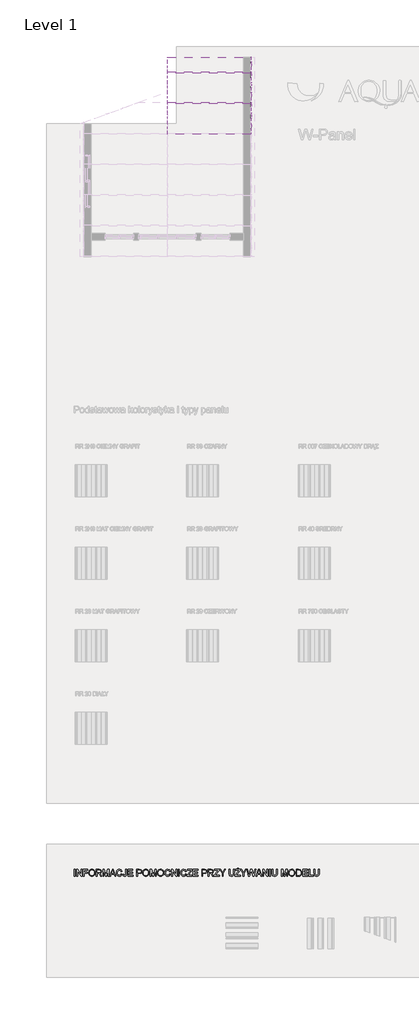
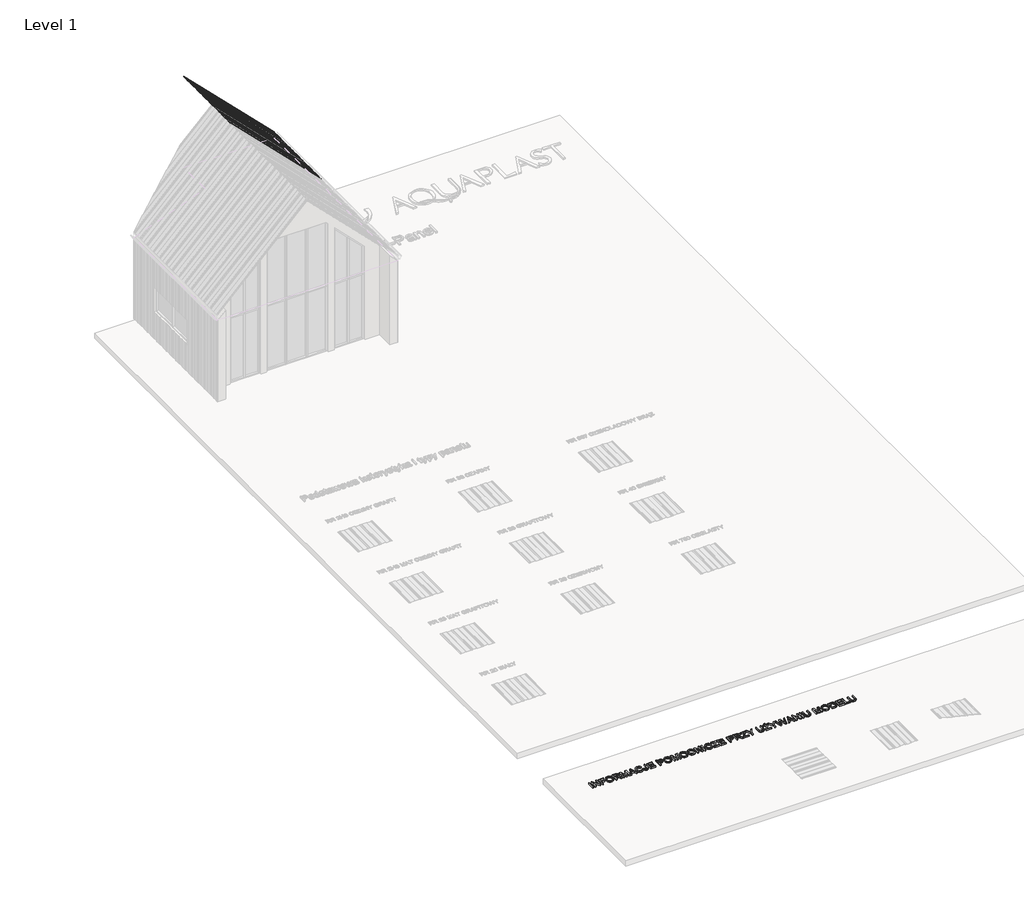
# One storey, part 4 of 9: 7 proxies.
"""IFC4 building model written with IfcOpenShell, lengths in millimetres."""

from ifc_helpers import new_model, si_unit, frame, origin, place, context, project, spatial, polyline, outline, extrude, transform, mapped, element, save
from components import specialty_equipment_76631281, specialty_equipment_bb2a4659

model = new_model("IFC4")

# Units and contexts
model_context = context("Model", 3, world=origin())
ifc_project = project(units=[si_unit("LENGTHUNIT", "METRE", prefix="MILLI")], contexts=[model_context])

# Site, building, storey
site = spatial("IfcSite", under=ifc_project)
building = spatial("IfcBuilding", under=site)
storey = spatial("IfcBuildingStorey", under=building, Name="Level 1", Elevation=0.0)

# Proxies
placement = place(None, origin())
element("IfcBuildingElementProxy", 1, Name="AQUAPLAST - W-Panel : RR 32 BRĄZ", ObjectType="AQUAPLAST - W-Panel : RR 32 BRĄZ", at=placement, inside=storey, context=model_context, shape_type="SweptSolid", body=[
    extrude(outline(polyline([(0.0, -586.3438713), (10.0, -576.3438713), (10.0, -554.626294), (0.0, -544.626294), (0.0, -396.0417131), (10.0, -386.0417131), (10.0, -234.3241358), (0.0, -224.3241358), (0.0, -204.3241358), (10.0, -194.3241358), (10.0, -172.6065586), (0.0, -162.6065586), (0.0, -10.920379), (10.0, -0.920379), (10.0, 145.7971982), (0.0, 155.7971982), (0.0, 180.7971982), (10.0, 190.7971982), (10.0, 210.5370534), (0.0, 220.5370534), (0.0, 370.5370534), (10.0, 380.5370534), (10.0, 530.7135982), (0.5, 540.2135982), (0.5, 562.5464217), (10.5, 572.5464217), (10.5, 594.6782125), (4.6782125, 600.5), (5.4643393, 600.2138732), (11.0, 594.6782125), (11.0, 572.5464217), (1.0, 562.5464217), (1.0, 540.420705), (10.5, 530.920705), (10.5, 380.3299466), (0.5, 370.3299466), (0.5, 220.7441601), (10.5, 210.7441601), (10.5, 190.5900914), (0.5, 180.5900914), (0.5, 156.004305), (10.5, 146.004305), (10.5, -1.1274858), (0.5, -11.1274858), (0.5, -162.3994518), (10.5, -172.3994518), (10.5, -194.5312426), (0.5, -204.5312426), (0.5, -224.1170291), (10.5, -234.1170291), (10.5, -386.2488199), (0.5, -396.2488199), (0.5, -544.4191873), (10.5, -554.4191873), (10.5, -576.5509781), (0.5, -586.5509781), (0.5, -599.785926), (0.0, -600.5), (0.0, -586.3438713)])), frame((-2137.063183, 13860.5162138, 3795.9898987), z_axis=(-0.7071067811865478, 0.0, 0.7071067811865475), x_axis=(0.7071067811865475, 0.0, 0.7071067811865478)), (0.0, 0.0, 1.0), 4454.0),
])
element("IfcBuildingElementProxy", 2, Name="AQUAPLAST - W-Panel : RR 32 BRĄZ", ObjectType="AQUAPLAST - W-Panel : RR 32 BRĄZ", at=placement, inside=storey, context=model_context, shape_type="SweptSolid", body=[
    extrude(outline(polyline([(0.0, -586.3438713), (10.0, -576.3438713), (10.0, -554.626294), (0.0, -544.626294), (0.0, -396.0417131), (10.0, -386.0417131), (10.0, -234.3241358), (0.0, -224.3241358), (0.0, -204.3241358), (10.0, -194.3241358), (10.0, -172.6065586), (0.0, -162.6065586), (0.0, -10.920379), (10.0, -0.920379), (10.0, 145.7971982), (0.0, 155.7971982), (0.0, 180.7971982), (10.0, 190.7971982), (10.0, 210.5370534), (0.0, 220.5370534), (0.0, 370.5370534), (10.0, 380.5370534), (10.0, 530.7135982), (0.5, 540.2135982), (0.5, 562.5464217), (10.5, 572.5464217), (10.5, 594.6782125), (4.6782125, 600.5), (5.4643393, 600.2138732), (11.0, 594.6782125), (11.0, 572.5464217), (1.0, 562.5464217), (1.0, 540.420705), (10.5, 530.920705), (10.5, 380.3299466), (0.5, 370.3299466), (0.5, 220.7441601), (10.5, 210.7441601), (10.5, 190.5900914), (0.5, 180.5900914), (0.5, 156.004305), (10.5, 146.004305), (10.5, -1.1274858), (0.5, -11.1274858), (0.5, -162.3994518), (10.5, -172.3994518), (10.5, -194.5312426), (0.5, -204.5312426), (0.5, -224.1170291), (10.5, -234.1170291), (10.5, -386.2488199), (0.5, -396.2488199), (0.5, -544.4191873), (10.5, -554.4191873), (10.5, -576.5509781), (0.5, -586.5509781), (0.5, -599.785926), (0.0, -600.5), (0.0, -586.3438713)])), frame((-2137.063183, 15009.5162138, 3795.9898987), z_axis=(-0.7071067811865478, 0.0, 0.7071067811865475), x_axis=(0.7071067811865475, 0.0, 0.7071067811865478)), (0.0, 0.0, 1.0), 4454.0),
])
element("IfcBuildingElementProxy", 3, Name="AQUAPLAST - W-Panel : RR 32 BRĄZ", ObjectType="AQUAPLAST - W-Panel : RR 32 BRĄZ", at=placement, inside=storey, context=model_context, shape_type="SweptSolid", body=[
    extrude(outline(polyline([(0.0, -586.3438713), (10.0, -576.3438713), (10.0, -554.626294), (0.0, -544.626294), (0.0, -396.0417131), (10.0, -386.0417131), (10.0, -234.3241358), (0.0, -224.3241358), (0.0, -204.3241358), (10.0, -194.3241358), (10.0, -172.6065586), (0.0, -162.6065586), (0.0, -10.920379), (10.0, -0.920379), (10.0, 6.2), (10.5, 6.2), (10.5, -1.1274858), (0.5, -11.1274858), (0.5, -162.3994518), (10.5, -172.3994518), (10.5, -194.5312426), (0.5, -204.5312426), (0.5, -224.1170291), (10.5, -234.1170291), (10.5, -386.2488199), (0.5, -396.2488199), (0.5, -544.4191873), (10.5, -554.4191873), (10.5, -576.5509781), (0.5, -586.5509781), (0.5, -599.785926), (0.0, -600.5), (0.0, -586.3438713)])), frame((-2137.063183, 16158.5162138, 3795.9898987), z_axis=(-0.7071067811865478, 0.0, 0.7071067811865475), x_axis=(0.7071067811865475, 0.0, 0.7071067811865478)), (0.0, 0.0, 1.0), 4454.0),
])
specialty_equipment_shape = specialty_equipment_76631281(model_context)
element("IfcBuildingElementProxy", 4, Name="AQUAPLAST - W-Panel : RR 887 CZEKOLADOWY BRĄZ", ObjectType="AQUAPLAST - W-Panel : RR 887 CZEKOLADOWY BRĄZ", at=placement, inside=storey, context=model_context, shape_type="MappedRepresentation", body=[
    mapped(specialty_equipment_shape, transform((-2152.063183, 13862.8302878, 600.0), x_axis=(0.0, 1.0, 0.0), y_axis=(0.0, 0.0, 1.0), z_axis=(1.0, 0.0, 0.0))),
])
element("IfcBuildingElementProxy", 5, Name="AQUAPLAST - W-Panel : RR 887 CZEKOLADOWY BRĄZ", ObjectType="AQUAPLAST - W-Panel : RR 887 CZEKOLADOWY BRĄZ", at=placement, inside=storey, context=model_context, shape_type="MappedRepresentation", body=[
    mapped(specialty_equipment_shape, transform((-2152.063183, 15011.8302878, 600.0), x_axis=(0.0, 1.0, 0.0), y_axis=(0.0, 0.0, 1.0), z_axis=(1.0, 0.0, 0.0))),
])
specialty_equipment_2_shape = specialty_equipment_bb2a4659(model_context)
element("IfcBuildingElementProxy", 6, Name="AQUAPLAST - W-Panel : RR 887 CZEKOLADOWY BRĄZ", ObjectType="AQUAPLAST - W-Panel : RR 887 CZEKOLADOWY BRĄZ", at=placement, inside=storey, context=model_context, shape_type="MappedRepresentation", body=[
    mapped(specialty_equipment_2_shape, transform((-2152.063183, 16160.8302878, 600.0), x_axis=(0.0, 1.0, 0.0), y_axis=(0.0, 0.0, 1.0), z_axis=(1.0, 0.0, 0.0))),
])
element("IfcBuildingElementProxy", 7, Name="250", ObjectType="250", at=placement, inside=storey, context=model_context, shape_type="SweptSolid", body=[
    extrude(outline(polyline([(-8793.2713947, -14626.8895255), (-8793.2713947, -14375.7487501), (-8761.8787978, -14375.7487501), (-8761.8787978, -14626.8895255), (-8793.2713947, -14626.8895255)])), frame((0.0, 0.0, 600.0), z_axis=(0.0, 0.0, 1.0), x_axis=(1.0, 0.0, 0.0)), (0.0, 0.0, 1.0), 50.0),
    extrude(outline(polyline([(-8699.0936039, -14626.8895255), (-8699.0936039, -14375.7487501), (-8665.493715, -14375.7487501), (-8534.2824701, -14574.7115958), (-8534.2824701, -14375.7487501), (-8502.8898732, -14375.7487501), (-8502.8898732, -14626.8895255), (-8536.4897621, -14626.8895255), (-8667.701007, -14427.8653661), (-8667.701007, -14626.8895255), (-8699.0936039, -14626.8895255)])), frame((0.0, 0.0, 600.0), z_axis=(0.0, 0.0, 1.0), x_axis=(1.0, 0.0, 0.0)), (0.0, 0.0, 1.0), 50.0),
    extrude(outline(polyline([(-8447.9528286, -14626.8895255), (-8447.9528286, -14375.7487501), (-8279.2176201, -14375.7487501), (-8279.2176201, -14407.141347), (-8416.5602316, -14407.141347), (-8416.5602316, -14481.6987647), (-8298.8379932, -14481.6987647), (-8298.8379932, -14513.0913616), (-8416.5602316, -14513.0913616), (-8416.5602316, -14626.8895255), (-8447.9528286, -14626.8895255)])), frame((0.0, 0.0, 600.0), z_axis=(0.0, 0.0, 1.0), x_axis=(1.0, 0.0, 0.0)), (0.0, 0.0, 1.0), 50.0),
    extrude(outline(polyline([(-8247.8250232, -14504.6300758), (-8245.7326943, -14475.1726914), (-8239.4557078, -14449.0952229), (-8228.9940635, -14426.3976702), (-8214.3477616, -14407.0800334), (-8196.3943538, -14391.6558143), (-8176.011392, -14380.638515), (-8153.1988762, -14374.0281354), (-8127.9568064, -14371.8246755), (-8095.0160394, -14375.9633479), (-8065.4781809, -14388.3793653), (-8040.9527146, -14408.1990078), (-8023.0491241, -14434.5485557), (-8012.1046348, -14466.1557504), (-8008.4564716, -14501.7483335), (-8012.29624, -14537.8160974), (-8023.8155449, -14569.8678162), (-8042.3782573, -14596.2633494), (-8067.3482477, -14615.3625563), (-8096.6331874, -14626.9508392), (-8128.1407474, -14630.8136001), (-8161.5873521, -14626.5446361), (-8191.2938232, -14613.7377442), (-8215.7579759, -14593.5502197), (-8233.4776254, -14567.1393581), (-8244.2381737, -14536.7507725), (-8247.8250232, -14504.6300758)]), holes=[polyline([(-8216.4324263, -14504.9366441), (-8214.8631796, -14525.7488015), (-8210.1554397, -14544.2233755), (-8202.3092065, -14560.3603659), (-8191.3244801, -14574.1597728), (-8177.9715133, -14585.2115611), (-8163.0205591, -14593.1056956), (-8146.4716175, -14597.8421763), (-8128.3246884, -14599.4210032), (-8109.8673589, -14597.8268479), (-8093.12298, -14593.0443819), (-8078.0915516, -14585.0736054), (-8064.7730737, -14573.9145182), (-8053.8688215, -14559.8238713), (-8046.0800699, -14543.0584158), (-8041.4068189, -14523.6181517), (-8039.8490686, -14501.5030788), (-8042.516213, -14473.7126597), (-8050.5176464, -14449.6930311), (-8063.6464351, -14430.0496654), (-8081.6956455, -14415.3880351), (-8103.4696611, -14406.2599631), (-8127.7728654, -14403.2172724), (-8161.5413669, -14409.0803917), (-8190.2514909, -14426.6697496), (-8201.7056501, -14440.3561095), (-8209.8871924, -14457.9627118), (-8214.7961178, -14479.4895567), (-8216.4324263, -14504.9366441)])]), frame((0.0, 0.0, 600.0), z_axis=(0.0, 0.0, 1.0), x_axis=(1.0, 0.0, 0.0)), (0.0, 0.0, 1.0), 50.0),
    extrude(outline(polyline([(-7965.2916509, -14626.8895255), (-7965.2916509, -14375.7487501), (-7857.0730306, -14375.7487501), (-7827.9873604, -14377.4425401), (-7806.8264815, -14382.5239102), (-7791.3601092, -14391.9049011), (-7779.3579592, -14406.4975535), (-7771.6554299, -14424.5927492), (-7769.0879201, -14444.4813695), (-7773.3415557, -14469.2214337), (-7786.1024624, -14489.7308549), (-7807.7538507, -14504.7680315), (-7838.6789309, -14513.0913616), (-7820.8366541, -14526.5190545), (-7795.3914828, -14558.8313564), (-7753.514249, -14626.8895255), (-7789.9958802, -14626.8895255), (-7822.6760641, -14574.8342232), (-7846.2818254, -14540.375943), (-7862.8671721, -14524.0971647), (-7877.7970497, -14518.1190822), (-7896.0072085, -14517.0154363), (-7933.899054, -14517.0154363), (-7933.899054, -14626.8895255), (-7965.2916509, -14626.8895255)]), holes=[polyline([(-7933.899054, -14485.6228393), (-7863.6335929, -14485.6228393), (-7827.7957552, -14481.1775986), (-7816.0082029, -14475.3987856), (-7807.4396181, -14466.9528281), (-7802.2202923, -14456.7364385), (-7800.480517, -14445.6463292), (-7803.7991192, -14430.3332411), (-7813.7549257, -14417.9938659), (-7830.8844311, -14409.8544767), (-7855.72413, -14407.141347), (-7933.899054, -14407.141347), (-7933.899054, -14485.6228393)])]), frame((0.0, 0.0, 600.0), z_axis=(0.0, 0.0, 1.0), x_axis=(1.0, 0.0, 0.0)), (0.0, 0.0, 1.0), 50.0),
    extrude(outline(polyline([(-7714.1508755, -14626.8895255), (-7714.1508755, -14375.7487501), (-7660.3174769, -14375.7487501), (-7608.8139976, -14552.7613035), (-7598.3906744, -14589.733444), (-7587.1702735, -14549.6956202), (-7536.6478128, -14375.7487501), (-7482.6304732, -14375.7487501), (-7482.6304732, -14626.8895255), (-7514.0230701, -14626.8895255), (-7514.0230701, -14407.141347), (-7577.1148323, -14626.8895255), (-7619.6052027, -14626.8895255), (-7682.7582786, -14407.141347), (-7682.7582786, -14626.8895255), (-7714.1508755, -14626.8895255)])), frame((0.0, 0.0, 600.0), z_axis=(0.0, 0.0, 1.0), x_axis=(1.0, 0.0, 0.0)), (0.0, 0.0, 1.0), 50.0),
    extrude(outline(polyline([(-7456.8787335, -14626.8895255), (-7356.6308899, -14375.7487501), (-7329.8981315, -14375.7487501), (-7229.7116015, -14626.8895255), (-7262.8822948, -14626.8895255), (-7291.5770904, -14548.4080332), (-7395.0745584, -14548.4080332), (-7423.769354, -14626.8895255), (-7456.8787335, -14626.8895255)]), holes=[polyline([(-7383.5475892, -14517.0154363), (-7303.0427459, -14517.0154363), (-7325.7288023, -14455.2725747), (-7343.3258244, -14407.141347), (-7358.9608092, -14449.8769721), (-7383.5475892, -14517.0154363)])]), frame((0.0, 0.0, 600.0), z_axis=(0.0, 0.0, 1.0), x_axis=(1.0, 0.0, 0.0)), (0.0, 0.0, 1.0), 50.0),
    extrude(outline(polyline([(-7019.5896686, -14537.616828), (-6988.1970717, -14545.7102319), (-7002.6824253, -14582.2914978), (-7025.4144669, -14609.0165919), (-7055.2742221, -14625.364348), (-7091.1427167, -14630.8136001), (-7127.55537, -14626.6902561), (-7156.4724277, -14614.320224), (-7178.6373179, -14594.1326995), (-7194.7934688, -14566.5568783), (-7204.6573048, -14534.1372775), (-7207.9452501, -14499.4184142), (-7204.2281091, -14462.7988272), (-7193.0766862, -14431.1763041), (-7175.073461, -14405.5548559), (-7150.8009136, -14386.9384941), (-7122.0141474, -14375.6031302), (-7090.4682663, -14371.8246755), (-7056.0483072, -14376.7144403), (-7027.591102, -14391.3837349), (-7005.985699, -14414.9281826), (-6992.1211463, -14446.4434069), (-7023.5137432, -14453.9236741), (-7034.3969189, -14431.0306841), (-7049.2654829, -14415.3267214), (-7068.3033761, -14406.2446347), (-7091.6945397, -14403.2172724), (-7118.6572242, -14406.5741956), (-7140.806786, -14416.6449652), (-7157.6143947, -14432.3719205), (-7168.5512198, -14452.6974008), (-7174.5522949, -14475.6746971), (-7176.5526532, -14499.3571005), (-7174.1844129, -14528.3584644), (-7167.0796918, -14553.4357538), (-7154.9702428, -14573.6309425), (-7137.5878186, -14587.9860045), (-7116.7488364, -14596.5622535), (-7094.2697136, -14599.4210032), (-7068.0657857, -14595.5275854), (-7046.2304564, -14583.847332), (-7029.7447445, -14564.5028705), (-7019.5896686, -14537.616828)])), frame((0.0, 0.0, 600.0), z_axis=(0.0, 0.0, 1.0), x_axis=(1.0, 0.0, 0.0)), (0.0, 0.0, 1.0), 50.0),
    extrude(outline(polyline([(-6960.7285494, -14556.3788097), (-6929.3359525, -14552.3321078), (-6926.0709998, -14575.1561199), (-6918.6060609, -14589.4268756), (-6907.2017191, -14596.9224713), (-6892.1185573, -14599.4210032), (-6880.5226102, -14598.0031247), (-6870.6281174, -14593.7494891), (-6862.994566, -14587.0509711), (-6858.1814432, -14578.2984453), (-6854.7785348, -14547.1817599), (-6854.7785348, -14375.7487501), (-6823.3859379, -14375.7487501), (-6823.3859379, -14546.6299369), (-6825.2789973, -14574.5813043), (-6830.9581756, -14595.4049581), (-6840.7530337, -14610.6184114), (-6854.9931326, -14621.7391776), (-6872.8737304, -14628.5449945), (-6893.5900853, -14630.8136001), (-6922.6067776, -14626.1307689), (-6943.9286049, -14612.0822752), (-6956.8657884, -14588.7907464), (-6960.7285494, -14556.3788097)])), frame((0.0, 0.0, 600.0), z_axis=(0.0, 0.0, 1.0), x_axis=(1.0, 0.0, 0.0)), (0.0, 0.0, 1.0), 50.0),
    extrude(outline(polyline([(-6768.4488932, -14626.8895255), (-6768.4488932, -14375.7487501), (-6587.9414609, -14375.7487501), (-6587.9414609, -14407.141347), (-6737.0562963, -14407.141347), (-6737.0562963, -14481.6987647), (-6595.7896102, -14481.6987647), (-6595.7896102, -14513.0913616), (-6737.0562963, -14513.0913616), (-6737.0562963, -14595.4969286), (-6584.0173863, -14595.4969286), (-6584.0173863, -14626.8895255), (-6768.4488932, -14626.8895255)])), frame((0.0, 0.0, 600.0), z_axis=(0.0, 0.0, 1.0), x_axis=(1.0, 0.0, 0.0)), (0.0, 0.0, 1.0), 50.0),
    extrude(outline(polyline([(-6438.8266256, -14626.8895255), (-6438.8266256, -14375.7487501), (-6345.7524808, -14375.7487501), (-6308.2285173, -14378.1399831), (-6291.4975507, -14382.6082165), (-6277.7249685, -14389.8815501), (-6266.6348592, -14400.2895449), (-6257.9513113, -14414.1617618), (-6252.3411108, -14430.5248464), (-6250.471044, -14448.4054442), (-6255.5217573, -14478.0046164), (-6270.6738969, -14502.6680384), (-6282.8082546, -14512.3785903), (-6299.0084748, -14519.3146987), (-6319.2745574, -14523.4763638), (-6343.6065025, -14524.8635855), (-6407.4340286, -14524.8635855), (-6407.4340286, -14626.8895255), (-6438.8266256, -14626.8895255)]), holes=[polyline([(-6407.4340286, -14493.4709886), (-6341.7670925, -14493.4709886), (-6313.9306882, -14490.5892463), (-6295.5365884, -14481.9440194), (-6285.2818778, -14468.0718025), (-6281.863641, -14449.5090901), (-6283.8793277, -14435.406947), (-6289.926388, -14423.5120958), (-6299.2537294, -14414.5603006), (-6311.1102596, -14409.2873253), (-6342.5028565, -14407.141347), (-6407.4340286, -14407.141347), (-6407.4340286, -14493.4709886)])]), frame((0.0, 0.0, 600.0), z_axis=(0.0, 0.0, 1.0), x_axis=(1.0, 0.0, 0.0)), (0.0, 0.0, 1.0), 50.0),
    extrude(outline(polyline([(-6219.0784471, -14504.6300758), (-6216.9861183, -14475.1726914), (-6210.7091317, -14449.0952229), (-6200.2474875, -14426.3976702), (-6185.6011855, -14407.0800334), (-6167.6477778, -14391.6558143), (-6147.264816, -14380.638515), (-6124.4523002, -14374.0281354), (-6099.2102303, -14371.8246755), (-6066.2694634, -14375.9633479), (-6036.7316048, -14388.3793653), (-6012.2061385, -14408.1990078), (-5994.3025481, -14434.5485557), (-5983.3580587, -14466.1557504), (-5979.7098956, -14501.7483335), (-5983.5496639, -14537.8160974), (-5995.0689689, -14569.8678162), (-6013.6316812, -14596.2633494), (-6038.6016716, -14615.3625563), (-6067.8866113, -14626.9508392), (-6099.3941713, -14630.8136001), (-6132.8407761, -14626.5446361), (-6162.5472472, -14613.7377442), (-6187.0113999, -14593.5502197), (-6204.7310493, -14567.1393581), (-6215.4915977, -14536.7507725), (-6219.0784471, -14504.6300758)]), holes=[polyline([(-6187.6858502, -14504.9366441), (-6186.1166035, -14525.7488015), (-6181.4088636, -14544.2233755), (-6173.5626305, -14560.3603659), (-6162.577904, -14574.1597728), (-6149.2249372, -14585.2115611), (-6134.273983, -14593.1056956), (-6117.7250414, -14597.8421763), (-6099.5781123, -14599.4210032), (-6081.1207829, -14597.8268479), (-6064.3764039, -14593.0443819), (-6049.3449755, -14585.0736054), (-6036.0264977, -14573.9145182), (-6025.1222454, -14559.8238713), (-6017.3334938, -14543.0584158), (-6012.6602428, -14523.6181517), (-6011.1024925, -14501.5030788), (-6013.769637, -14473.7126597), (-6021.7710704, -14449.6930311), (-6034.8998591, -14430.0496654), (-6052.9490695, -14415.3880351), (-6074.723085, -14406.2599631), (-6099.0262893, -14403.2172724), (-6132.7947908, -14409.0803917), (-6161.5049149, -14426.6697496), (-6172.9590741, -14440.3561095), (-6181.1406164, -14457.9627118), (-6186.0495417, -14479.4895567), (-6187.6858502, -14504.9366441)])]), frame((0.0, 0.0, 600.0), z_axis=(0.0, 0.0, 1.0), x_axis=(1.0, 0.0, 0.0)), (0.0, 0.0, 1.0), 50.0),
    extrude(outline(polyline([(-5936.5450748, -14626.8895255), (-5936.5450748, -14375.7487501), (-5882.7116762, -14375.7487501), (-5831.2081969, -14552.7613035), (-5820.7848737, -14589.733444), (-5809.5644728, -14549.6956202), (-5759.0420121, -14375.7487501), (-5705.0246725, -14375.7487501), (-5705.0246725, -14626.8895255), (-5736.4172694, -14626.8895255), (-5736.4172694, -14407.141347), (-5799.5090316, -14626.8895255), (-5841.9994021, -14626.8895255), (-5905.1524779, -14407.141347), (-5905.1524779, -14626.8895255), (-5936.5450748, -14626.8895255)])), frame((0.0, 0.0, 600.0), z_axis=(0.0, 0.0, 1.0), x_axis=(1.0, 0.0, 0.0)), (0.0, 0.0, 1.0), 50.0),
    extrude(outline(polyline([(-5661.8598517, -14504.6300758), (-5659.7675229, -14475.1726914), (-5653.4905364, -14449.0952229), (-5643.0288921, -14426.3976702), (-5628.3825902, -14407.0800334), (-5610.4291824, -14391.6558143), (-5590.0462206, -14380.638515), (-5567.2337048, -14374.0281354), (-5541.991635, -14371.8246755), (-5509.050868, -14375.9633479), (-5479.5130095, -14388.3793653), (-5454.9875431, -14408.1990078), (-5437.0839527, -14434.5485557), (-5426.1394633, -14466.1557504), (-5422.4913002, -14501.7483335), (-5426.3310685, -14537.8160974), (-5437.8503735, -14569.8678162), (-5456.4130859, -14596.2633494), (-5481.3830763, -14615.3625563), (-5510.6680159, -14626.9508392), (-5542.175576, -14630.8136001), (-5575.6221807, -14626.5446361), (-5605.3286518, -14613.7377442), (-5629.7928045, -14593.5502197), (-5647.5124539, -14567.1393581), (-5658.2730023, -14536.7507725), (-5661.8598517, -14504.6300758)]), holes=[polyline([(-5630.4672548, -14504.9366441), (-5628.8980082, -14525.7488015), (-5624.1902683, -14544.2233755), (-5616.3440351, -14560.3603659), (-5605.3593087, -14574.1597728), (-5592.0063419, -14585.2115611), (-5577.0553876, -14593.1056956), (-5560.506446, -14597.8421763), (-5542.359517, -14599.4210032), (-5523.9021875, -14597.8268479), (-5507.1578086, -14593.0443819), (-5492.1263802, -14585.0736054), (-5478.8079023, -14573.9145182), (-5467.90365, -14559.8238713), (-5460.1148984, -14543.0584158), (-5455.4416475, -14523.6181517), (-5453.8838971, -14501.5030788), (-5456.5510416, -14473.7126597), (-5464.552475, -14449.6930311), (-5477.6812637, -14430.0496654), (-5495.7304741, -14415.3880351), (-5517.5044897, -14406.2599631), (-5541.807694, -14403.2172724), (-5575.5761955, -14409.0803917), (-5604.2863195, -14426.6697496), (-5615.7404787, -14440.3561095), (-5623.922021, -14457.9627118), (-5628.8309464, -14479.4895567), (-5630.4672548, -14504.9366441)])]), frame((0.0, 0.0, 600.0), z_axis=(0.0, 0.0, 1.0), x_axis=(1.0, 0.0, 0.0)), (0.0, 0.0, 1.0), 50.0),
    extrude(outline(polyline([(-5202.7431218, -14537.616828), (-5171.3505248, -14545.7102319), (-5185.8358784, -14582.2914978), (-5208.56792, -14609.0165919), (-5238.4276753, -14625.364348), (-5274.2961698, -14630.8136001), (-5310.7088231, -14626.6902561), (-5339.6258808, -14614.320224), (-5361.790771, -14594.1326995), (-5377.946922, -14566.5568783), (-5387.810758, -14534.1372775), (-5391.0987033, -14499.4184142), (-5387.3815623, -14462.7988272), (-5376.2301393, -14431.1763041), (-5358.2269142, -14405.5548559), (-5333.9543667, -14386.9384941), (-5305.1676006, -14375.6031302), (-5273.6217195, -14371.8246755), (-5239.2017603, -14376.7144403), (-5210.7445552, -14391.3837349), (-5189.1391522, -14414.9281826), (-5175.2745995, -14446.4434069), (-5206.6671964, -14453.9236741), (-5217.5503721, -14431.0306841), (-5232.418936, -14415.3267214), (-5251.4568293, -14406.2446347), (-5274.8479928, -14403.2172724), (-5301.8106774, -14406.5741956), (-5323.9602392, -14416.6449652), (-5340.7678478, -14432.3719205), (-5351.704673, -14452.6974008), (-5357.705748, -14475.6746971), (-5359.7061064, -14499.3571005), (-5357.337866, -14528.3584644), (-5350.233145, -14553.4357538), (-5338.123696, -14573.6309425), (-5320.7412717, -14587.9860045), (-5299.9022895, -14596.5622535), (-5277.4231668, -14599.4210032), (-5251.2192388, -14595.5275854), (-5229.3839096, -14583.847332), (-5212.8981977, -14564.5028705), (-5202.7431218, -14537.616828)])), frame((0.0, 0.0, 600.0), z_axis=(0.0, 0.0, 1.0), x_axis=(1.0, 0.0, 0.0)), (0.0, 0.0, 1.0), 50.0),
    extrude(outline(polyline([(-5128.1857041, -14626.8895255), (-5128.1857041, -14375.7487501), (-5094.5858152, -14375.7487501), (-4963.3745702, -14574.7115958), (-4963.3745702, -14375.7487501), (-4931.9819733, -14375.7487501), (-4931.9819733, -14626.8895255), (-4965.5818622, -14626.8895255), (-5096.7931072, -14427.8653661), (-5096.7931072, -14626.8895255), (-5128.1857041, -14626.8895255)])), frame((0.0, 0.0, 600.0), z_axis=(0.0, 0.0, 1.0), x_axis=(1.0, 0.0, 0.0)), (0.0, 0.0, 1.0), 50.0),
    extrude(outline(polyline([(-4873.1208541, -14626.8895255), (-4873.1208541, -14375.7487501), (-4841.7282572, -14375.7487501), (-4841.7282572, -14626.8895255), (-4873.1208541, -14626.8895255)])), frame((0.0, 0.0, 600.0), z_axis=(0.0, 0.0, 1.0), x_axis=(1.0, 0.0, 0.0)), (0.0, 0.0, 1.0), 50.0),
    extrude(outline(polyline([(-4602.3597056, -14537.616828), (-4570.9671087, -14545.7102319), (-4585.4524623, -14582.2914978), (-4608.1845039, -14609.0165919), (-4638.0442592, -14625.364348), (-4673.9127537, -14630.8136001), (-4710.325407, -14626.6902561), (-4739.2424647, -14614.320224), (-4761.4073549, -14594.1326995), (-4777.5635058, -14566.5568783), (-4787.4273418, -14534.1372775), (-4790.7152872, -14499.4184142), (-4786.9981462, -14462.7988272), (-4775.8467232, -14431.1763041), (-4757.8434981, -14405.5548559), (-4733.5709506, -14386.9384941), (-4704.7841845, -14375.6031302), (-4673.2383034, -14371.8246755), (-4638.8183442, -14376.7144403), (-4610.361139, -14391.3837349), (-4588.755736, -14414.9281826), (-4574.8911833, -14446.4434069), (-4606.2837803, -14453.9236741), (-4617.1669559, -14431.0306841), (-4632.0355199, -14415.3267214), (-4651.0734132, -14406.2446347), (-4674.4645767, -14403.2172724), (-4701.4272613, -14406.5741956), (-4723.576823, -14416.6449652), (-4740.3844317, -14432.3719205), (-4751.3212569, -14452.6974008), (-4757.3223319, -14475.6746971), (-4759.3226902, -14499.3571005), (-4756.9544499, -14528.3584644), (-4749.8497289, -14553.4357538), (-4737.7402799, -14573.6309425), (-4720.3578556, -14587.9860045), (-4699.5188734, -14596.5622535), (-4677.0397507, -14599.4210032), (-4650.8358227, -14595.5275854), (-4629.0004935, -14583.847332), (-4612.5147815, -14564.5028705), (-4602.3597056, -14537.616828)])), frame((0.0, 0.0, 600.0), z_axis=(0.0, 0.0, 1.0), x_axis=(1.0, 0.0, 0.0)), (0.0, 0.0, 1.0), 50.0),
    extrude(outline(polyline([(-4547.422661, -14626.8895255), (-4547.422661, -14594.3319689), (-4419.0318447, -14437.0011023), (-4394.6290057, -14407.141347), (-4531.7263626, -14407.141347), (-4531.7263626, -14375.7487501), (-4355.1430049, -14375.7487501), (-4355.1430049, -14407.141347), (-4495.673927, -14579.3101208), (-4508.9176789, -14595.4969286), (-4351.2189303, -14595.4969286), (-4351.2189303, -14626.8895255), (-4547.422661, -14626.8895255)])), frame((0.0, 0.0, 600.0), z_axis=(0.0, 0.0, 1.0), x_axis=(1.0, 0.0, 0.0)), (0.0, 0.0, 1.0), 50.0),
    extrude(outline(polyline([(-4315.9022587, -14626.8895255), (-4315.9022587, -14375.7487501), (-4135.3948264, -14375.7487501), (-4135.3948264, -14407.141347), (-4284.5096618, -14407.141347), (-4284.5096618, -14481.6987647), (-4143.2429757, -14481.6987647), (-4143.2429757, -14513.0913616), (-4284.5096618, -14513.0913616), (-4284.5096618, -14595.4969286), (-4131.4707518, -14595.4969286), (-4131.4707518, -14626.8895255), (-4315.9022587, -14626.8895255)])), frame((0.0, 0.0, 600.0), z_axis=(0.0, 0.0, 1.0), x_axis=(1.0, 0.0, 0.0)), (0.0, 0.0, 1.0), 50.0),
    extrude(outline(polyline([(-3986.279991, -14626.8895255), (-3986.279991, -14375.7487501), (-3893.2058463, -14375.7487501), (-3855.6818828, -14378.1399831), (-3838.9509162, -14382.6082165), (-3825.178334, -14389.8815501), (-3814.0882247, -14400.2895449), (-3805.4046768, -14414.1617618), (-3799.7944763, -14430.5248464), (-3797.9244095, -14448.4054442), (-3802.9751227, -14478.0046164), (-3818.1272624, -14502.6680384), (-3830.2616201, -14512.3785903), (-3846.4618403, -14519.3146987), (-3866.7279229, -14523.4763638), (-3891.059868, -14524.8635855), (-3954.8873941, -14524.8635855), (-3954.8873941, -14626.8895255), (-3986.279991, -14626.8895255)]), holes=[polyline([(-3954.8873941, -14493.4709886), (-3889.220458, -14493.4709886), (-3861.3840537, -14490.5892463), (-3842.9899539, -14481.9440194), (-3832.7352433, -14468.0718025), (-3829.3170064, -14449.5090901), (-3831.3326932, -14435.406947), (-3837.3797535, -14423.5120958), (-3846.7070949, -14414.5603006), (-3858.5636251, -14409.2873253), (-3889.956222, -14407.141347), (-3954.8873941, -14407.141347), (-3954.8873941, -14493.4709886)])]), frame((0.0, 0.0, 600.0), z_axis=(0.0, 0.0, 1.0), x_axis=(1.0, 0.0, 0.0)), (0.0, 0.0, 1.0), 50.0),
    extrude(outline(polyline([(-3754.7595887, -14626.8895255), (-3754.7595887, -14375.7487501), (-3646.5409685, -14375.7487501), (-3617.4552983, -14377.4425401), (-3596.2944193, -14382.5239102), (-3580.8280471, -14391.9049011), (-3568.825897, -14406.4975535), (-3561.1233677, -14424.5927492), (-3558.555858, -14444.4813695), (-3562.8094936, -14469.2214337), (-3575.5704003, -14489.7308549), (-3597.2217885, -14504.7680315), (-3628.1468687, -14513.0913616), (-3610.304592, -14526.5190545), (-3584.8594206, -14558.8313564), (-3542.9821869, -14626.8895255), (-3579.463818, -14626.8895255), (-3612.144002, -14574.8342232), (-3635.7497633, -14540.375943), (-3652.3351099, -14524.0971647), (-3667.2649876, -14518.1190822), (-3685.4751463, -14517.0154363), (-3723.3669918, -14517.0154363), (-3723.3669918, -14626.8895255), (-3754.7595887, -14626.8895255)]), holes=[polyline([(-3723.3669918, -14485.6228393), (-3653.1015307, -14485.6228393), (-3617.2636931, -14481.1775986), (-3605.4761408, -14475.3987856), (-3596.907556, -14466.9528281), (-3591.6882302, -14456.7364385), (-3589.9484549, -14445.6463292), (-3593.2670571, -14430.3332411), (-3603.2228636, -14417.9938659), (-3620.352369, -14409.8544767), (-3645.1920679, -14407.141347), (-3723.3669918, -14407.141347), (-3723.3669918, -14485.6228393)])]), frame((0.0, 0.0, 600.0), z_axis=(0.0, 0.0, 1.0), x_axis=(1.0, 0.0, 0.0)), (0.0, 0.0, 1.0), 50.0),
    extrude(outline(polyline([(-3523.2391865, -14626.8895255), (-3523.2391865, -14594.3319689), (-3394.8483701, -14437.0011023), (-3370.4455311, -14407.141347), (-3507.542888, -14407.141347), (-3507.542888, -14375.7487501), (-3330.9595303, -14375.7487501), (-3330.9595303, -14407.141347), (-3471.4904525, -14579.3101208), (-3484.7342043, -14595.4969286), (-3327.0354557, -14595.4969286), (-3327.0354557, -14626.8895255), (-3523.2391865, -14626.8895255)])), frame((0.0, 0.0, 600.0), z_axis=(0.0, 0.0, 1.0), x_axis=(1.0, 0.0, 0.0)), (0.0, 0.0, 1.0), 50.0),
    extrude(outline(polyline([(-3221.0854411, -14626.8895255), (-3221.0854411, -14520.5103152), (-3319.1873065, -14375.7487501), (-3282.2151659, -14375.7487501), (-3229.8532953, -14453.0652828), (-3203.0592233, -14492.5512836), (-3176.142524, -14450.2448541), (-3128.624433, -14375.7487501), (-3091.5909788, -14375.7487501), (-3189.6928442, -14520.5103152), (-3189.6928442, -14626.8895255), (-3221.0854411, -14626.8895255)])), frame((0.0, 0.0, 600.0), z_axis=(0.0, 0.0, 1.0), x_axis=(1.0, 0.0, 0.0)), (0.0, 0.0, 1.0), 50.0),
    extrude(outline(polyline([(-2801.2094573, -14375.7487501), (-2769.8168603, -14375.7487501), (-2769.8168603, -14520.6329425), (-2771.9475102, -14554.5623924), (-2778.3394599, -14580.6896783), (-2790.2802963, -14600.8465459), (-2809.0576065, -14616.8647411), (-2834.7173756, -14627.3263854), (-2867.3055891, -14630.8136001), (-2899.1810311, -14627.7785736), (-2924.6645235, -14618.6734943), (-2943.7637304, -14603.8125945), (-2956.486316, -14583.5101069), (-2963.6370223, -14556.279175), (-2966.0205911, -14520.6329425), (-2966.0205911, -14375.7487501), (-2934.6279942, -14375.7487501), (-2934.6279942, -14519.5292966), (-2933.0798241, -14547.7412471), (-2928.4353139, -14567.3846128), (-2920.0200133, -14580.9885824), (-2907.1594719, -14591.0823446), (-2890.3901842, -14597.3363385), (-2870.248645, -14599.4210032), (-2838.3195535, -14595.2976591), (-2817.0896967, -14582.9276271), (-2810.1420919, -14572.7802154), (-2805.1795171, -14558.8313564), (-2801.2094573, -14519.5292966), (-2801.2094573, -14375.7487501)])), frame((0.0, 0.0, 600.0), z_axis=(0.0, 0.0, 1.0), x_axis=(1.0, 0.0, 0.0)), (0.0, 0.0, 1.0), 50.0),
    extrude(outline(polyline([(-2734.5001888, -14626.8895255), (-2734.5001888, -14594.3319689), (-2606.1093725, -14437.0011023), (-2581.7065335, -14407.141347), (-2718.8038903, -14407.141347), (-2718.8038903, -14375.7487501), (-2542.2205326, -14375.7487501), (-2542.2205326, -14407.141347), (-2682.7514548, -14579.3101208), (-2695.9952066, -14595.4969286), (-2538.296458, -14595.4969286), (-2538.296458, -14626.8895255), (-2734.5001888, -14626.8895255)])), frame((0.0, 0.0, 600.0), z_axis=(0.0, 0.0, 1.0), x_axis=(1.0, 0.0, 0.0)), (0.0, 0.0, 1.0), 50.0),
    extrude(outline(polyline([(-2648.1705473, -14360.0524516), (-2648.1705473, -14328.6598547), (-2616.7779503, -14328.6598547), (-2616.7779503, -14360.0524516), (-2648.1705473, -14360.0524516)])), frame((0.0, 0.0, 600.0), z_axis=(0.0, 0.0, 1.0), x_axis=(1.0, 0.0, 0.0)), (0.0, 0.0, 1.0), 50.0),
    extrude(outline(polyline([(-2432.3464434, -14626.8895255), (-2432.3464434, -14520.5103152), (-2530.4483088, -14375.7487501), (-2493.4761683, -14375.7487501), (-2441.1142976, -14453.0652828), (-2414.3202257, -14492.5512836), (-2387.4035263, -14450.2448541), (-2339.8854353, -14375.7487501), (-2302.8519811, -14375.7487501), (-2400.9538465, -14520.5103152), (-2400.9538465, -14626.8895255), (-2432.3464434, -14626.8895255)])), frame((0.0, 0.0, 600.0), z_axis=(0.0, 0.0, 1.0), x_axis=(1.0, 0.0, 0.0)), (0.0, 0.0, 1.0), 50.0),
    extrude(outline(polyline([(-2230.4405417, -14626.8895255), (-2298.9279065, -14375.7487501), (-2266.5542909, -14375.7487501), (-2226.8230354, -14540.8051386), (-2214.5603023, -14591.7567949), (-2201.4391778, -14546.6912505), (-2151.6524811, -14375.7487501), (-2104.9927814, -14375.7487501), (-2068.8177185, -14499.6636688), (-2053.3206895, -14545.6489182), (-2041.9010192, -14591.7567949), (-2030.006168, -14542.2766666), (-1989.9683442, -14375.7487501), (-1957.533415, -14375.7487501), (-2025.9594661, -14626.8895255), (-2059.559355, -14626.8895255), (-2119.8306885, -14433.1383414), (-2128.2306607, -14406.0990147), (-2137.6729653, -14438.6565713), (-2192.5486962, -14626.8895255), (-2230.4405417, -14626.8895255)])), frame((0.0, 0.0, 600.0), z_axis=(0.0, 0.0, 1.0), x_axis=(1.0, 0.0, 0.0)), (0.0, 0.0, 1.0), 50.0),
    extrude(outline(polyline([(-1955.326123, -14626.8895255), (-1855.0782793, -14375.7487501), (-1828.345521, -14375.7487501), (-1728.158991, -14626.8895255), (-1761.3296842, -14626.8895255), (-1790.0244798, -14548.4080332), (-1893.5219478, -14548.4080332), (-1922.2167434, -14626.8895255), (-1955.326123, -14626.8895255)]), holes=[polyline([(-1881.9949786, -14517.0154363), (-1801.4901354, -14517.0154363), (-1824.1761917, -14455.2725747), (-1841.7732138, -14407.141347), (-1857.4081986, -14449.8769721), (-1881.9949786, -14517.0154363)])]), frame((0.0, 0.0, 600.0), z_axis=(0.0, 0.0, 1.0), x_axis=(1.0, 0.0, 0.0)), (0.0, 0.0, 1.0), 50.0),
    extrude(outline(polyline([(-1694.6204158, -14626.8895255), (-1694.6204158, -14375.7487501), (-1661.0205269, -14375.7487501), (-1529.8092819, -14574.7115958), (-1529.8092819, -14375.7487501), (-1498.416685, -14375.7487501), (-1498.416685, -14626.8895255), (-1532.0165739, -14626.8895255), (-1663.2278188, -14427.8653661), (-1663.2278188, -14626.8895255), (-1694.6204158, -14626.8895255)])), frame((0.0, 0.0, 600.0), z_axis=(0.0, 0.0, 1.0), x_axis=(1.0, 0.0, 0.0)), (0.0, 0.0, 1.0), 50.0),
    extrude(outline(polyline([(-1439.5555658, -14626.8895255), (-1439.5555658, -14375.7487501), (-1408.1629688, -14375.7487501), (-1408.1629688, -14626.8895255), (-1439.5555658, -14626.8895255)])), frame((0.0, 0.0, 600.0), z_axis=(0.0, 0.0, 1.0), x_axis=(1.0, 0.0, 0.0)), (0.0, 0.0, 1.0), 50.0),
    extrude(outline(polyline([(-1180.5666412, -14375.7487501), (-1149.1740442, -14375.7487501), (-1149.1740442, -14520.6329425), (-1151.3046941, -14554.5623924), (-1157.6966438, -14580.6896783), (-1169.6374802, -14600.8465459), (-1188.4147904, -14616.8647411), (-1214.0745596, -14627.3263854), (-1246.662773, -14630.8136001), (-1278.538215, -14627.7785736), (-1304.0217074, -14618.6734943), (-1323.1209143, -14603.8125945), (-1335.8435, -14583.5101069), (-1342.9942062, -14556.279175), (-1345.377775, -14520.6329425), (-1345.377775, -14375.7487501), (-1313.9851781, -14375.7487501), (-1313.9851781, -14519.5292966), (-1312.437008, -14547.7412471), (-1307.7924978, -14567.3846128), (-1299.3771972, -14580.9885824), (-1286.5166558, -14591.0823446), (-1269.7473682, -14597.3363385), (-1249.6058289, -14599.4210032), (-1217.6767374, -14595.2976591), (-1196.4468806, -14582.9276271), (-1189.4992759, -14572.7802154), (-1184.536701, -14558.8313564), (-1180.5666412, -14519.5292966), (-1180.5666412, -14375.7487501)])), frame((0.0, 0.0, 600.0), z_axis=(0.0, 0.0, 1.0), x_axis=(1.0, 0.0, 0.0)), (0.0, 0.0, 1.0), 50.0),
    extrude(outline(polyline([(-996.1351343, -14626.8895255), (-996.1351343, -14375.7487501), (-942.3017356, -14375.7487501), (-890.7982563, -14552.7613035), (-880.3749331, -14589.733444), (-869.1545322, -14549.6956202), (-818.6320716, -14375.7487501), (-764.614732, -14375.7487501), (-764.614732, -14626.8895255), (-796.0073289, -14626.8895255), (-796.0073289, -14407.141347), (-859.099091, -14626.8895255), (-901.5894615, -14626.8895255), (-964.7425373, -14407.141347), (-964.7425373, -14626.8895255), (-996.1351343, -14626.8895255)])), frame((0.0, 0.0, 600.0), z_axis=(0.0, 0.0, 1.0), x_axis=(1.0, 0.0, 0.0)), (0.0, 0.0, 1.0), 50.0),
    extrude(outline(polyline([(-721.4499112, -14504.6300758), (-719.3575823, -14475.1726914), (-713.0805958, -14449.0952229), (-702.6189516, -14426.3976702), (-687.9726496, -14407.0800334), (-670.0192418, -14391.6558143), (-649.63628, -14380.638515), (-626.8237642, -14374.0281354), (-601.5816944, -14371.8246755), (-568.6409274, -14375.9633479), (-539.1030689, -14388.3793653), (-514.5776026, -14408.1990078), (-496.6740121, -14434.5485557), (-485.7295228, -14466.1557504), (-482.0813597, -14501.7483335), (-485.921128, -14537.8160974), (-497.440433, -14569.8678162), (-516.0031453, -14596.2633494), (-540.9731357, -14615.3625563), (-570.2580754, -14626.9508392), (-601.7656354, -14630.8136001), (-635.2122401, -14626.5446361), (-664.9187113, -14613.7377442), (-689.3828639, -14593.5502197), (-707.1025134, -14567.1393581), (-717.8630617, -14536.7507725), (-721.4499112, -14504.6300758)]), holes=[polyline([(-690.0573143, -14504.9366441), (-688.4880676, -14525.7488015), (-683.7803277, -14544.2233755), (-675.9340945, -14560.3603659), (-664.9493681, -14574.1597728), (-651.5964013, -14585.2115611), (-636.6454471, -14593.1056956), (-620.0965055, -14597.8421763), (-601.9495764, -14599.4210032), (-583.4922469, -14597.8268479), (-566.747868, -14593.0443819), (-551.7164396, -14585.0736054), (-538.3979618, -14573.9145182), (-527.4937095, -14559.8238713), (-519.7049579, -14543.0584158), (-515.0317069, -14523.6181517), (-513.4739566, -14501.5030788), (-516.141101, -14473.7126597), (-524.1425344, -14449.6930311), (-537.2713231, -14430.0496654), (-555.3205335, -14415.3880351), (-577.0945491, -14406.2599631), (-601.3977534, -14403.2172724), (-635.1662549, -14409.0803917), (-663.8763789, -14426.6697496), (-675.3305381, -14440.3561095), (-683.5120804, -14457.9627118), (-688.4210058, -14479.4895567), (-690.0573143, -14504.9366441)])]), frame((0.0, 0.0, 600.0), z_axis=(0.0, 0.0, 1.0), x_axis=(1.0, 0.0, 0.0)), (0.0, 0.0, 1.0), 50.0),
    extrude(outline(polyline([(-438.9165389, -14626.8895255), (-438.9165389, -14375.7487501), (-352.280329, -14375.7487501), (-307.4600393, -14379.3662564), (-287.4411274, -14386.3406859), (-270.5492124, -14397.3311605), (-253.1821166, -14416.4610242), (-240.8120845, -14440.2507266), (-233.4084593, -14468.2404151), (-230.9405843, -14499.9702371), (-232.6113817, -14526.9252575), (-237.6237739, -14550.645982), (-245.2573253, -14570.8411707), (-254.7916003, -14587.2195837), (-277.7229113, -14609.9976105), (-307.7359508, -14622.5975689), (-348.1109997, -14626.8895255), (-438.9165389, -14626.8895255)]), holes=[polyline([(-407.523942, -14595.4969286), (-351.9737607, -14595.4969286), (-311.5680549, -14590.9597173), (-288.2688619, -14578.1451611), (-277.3626935, -14564.5565199), (-269.1696549, -14546.967162), (-264.0422996, -14525.3004454), (-262.3331812, -14499.4797278), (-265.6824402, -14465.2667023), (-275.7302172, -14440.0054719), (-290.5757885, -14422.6537045), (-308.3184306, -14412.1690676), (-326.3753052, -14408.3982772), (-352.832152, -14407.141347), (-407.523942, -14407.141347), (-407.523942, -14595.4969286)])]), frame((0.0, 0.0, 600.0), z_axis=(0.0, 0.0, 1.0), x_axis=(1.0, 0.0, 0.0)), (0.0, 0.0, 1.0), 50.0),
    extrude(outline(polyline([(-187.7757635, -14626.8895255), (-187.7757635, -14375.7487501), (-7.2683312, -14375.7487501), (-7.2683312, -14407.141347), (-156.3831666, -14407.141347), (-156.3831666, -14481.6987647), (-15.1164804, -14481.6987647), (-15.1164804, -14513.0913616), (-156.3831666, -14513.0913616), (-156.3831666, -14595.4969286), (-3.3442566, -14595.4969286), (-3.3442566, -14626.8895255), (-187.7757635, -14626.8895255)])), frame((0.0, 0.0, 600.0), z_axis=(0.0, 0.0, 1.0), x_axis=(1.0, 0.0, 0.0)), (0.0, 0.0, 1.0), 50.0),
    extrude(outline(polyline([(43.7446388, -14626.8895255), (43.7446388, -14375.7487501), (75.1372357, -14375.7487501), (75.1372357, -14595.4969286), (200.7076234, -14595.4969286), (200.7076234, -14626.8895255), (43.7446388, -14626.8895255)])), frame((0.0, 0.0, 600.0), z_axis=(0.0, 0.0, 1.0), x_axis=(1.0, 0.0, 0.0)), (0.0, 0.0, 1.0), 50.0),
    extrude(outline(polyline([(400.8354288, -14375.7487501), (432.2280257, -14375.7487501), (432.2280257, -14520.6329425), (430.0973758, -14554.5623924), (423.7054261, -14580.6896783), (411.7645897, -14600.8465459), (392.9872795, -14616.8647411), (367.3275104, -14627.3263854), (334.739297, -14630.8136001), (302.8638549, -14627.7785736), (277.3803626, -14618.6734943), (258.2811556, -14603.8125945), (245.55857, -14583.5101069), (238.4078637, -14556.279175), (236.0242949, -14520.6329425), (236.0242949, -14375.7487501), (267.4168919, -14375.7487501), (267.4168919, -14519.5292966), (268.9650619, -14547.7412471), (273.6095721, -14567.3846128), (282.0248727, -14580.9885824), (294.8854142, -14591.0823446), (311.6547018, -14597.3363385), (331.796241, -14599.4210032), (363.7253325, -14595.2976591), (384.9551893, -14582.9276271), (391.9027941, -14572.7802154), (396.8653689, -14558.8313564), (400.8354288, -14519.5292966), (400.8354288, -14375.7487501)])), frame((0.0, 0.0, 600.0), z_axis=(0.0, 0.0, 1.0), x_axis=(1.0, 0.0, 0.0)), (0.0, 0.0, 1.0), 50.0),
])

save(model, "model.ifc")
